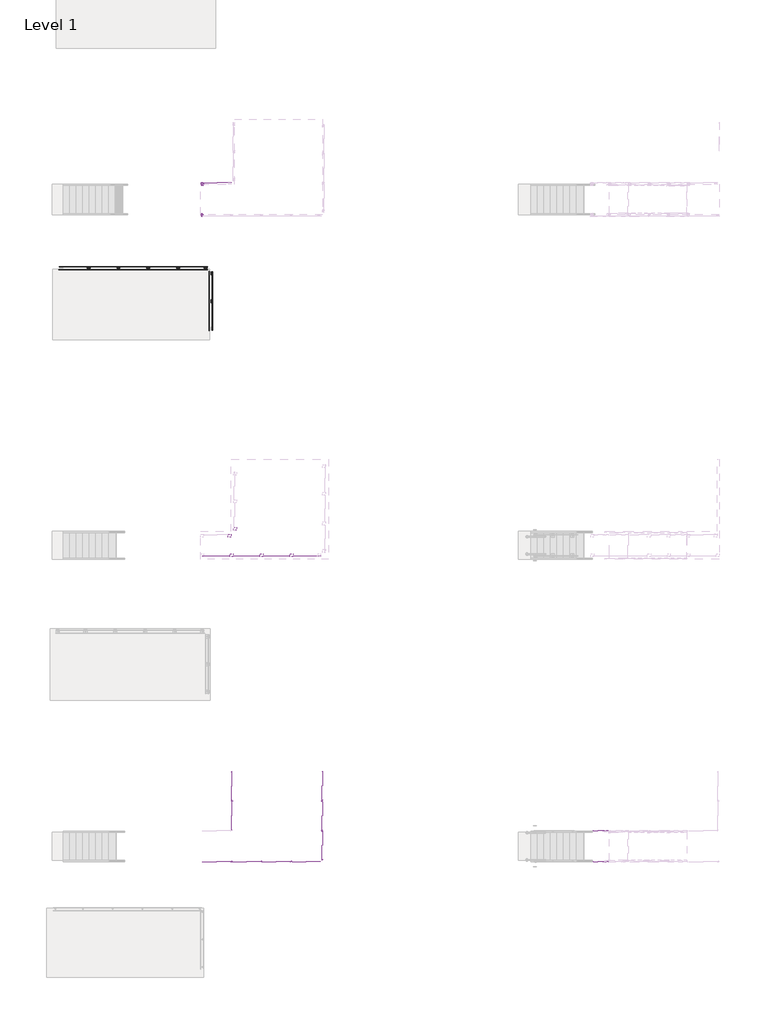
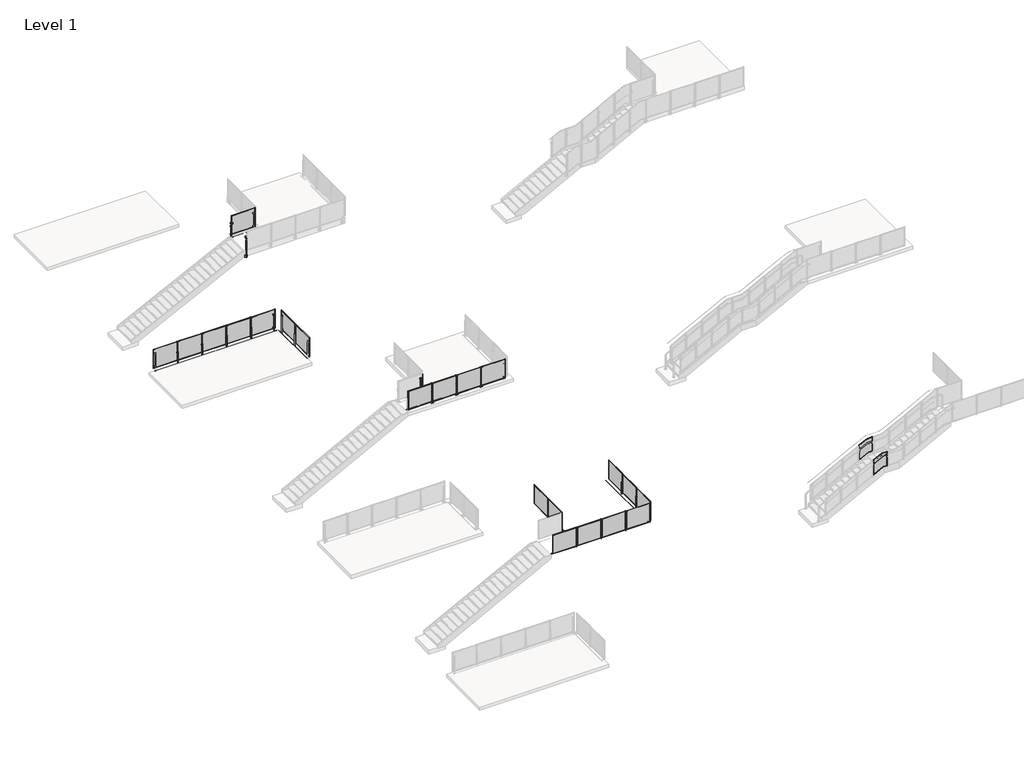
# One storey, part 2 of 28: 9 railings, 6 proxies.
"""IFC4 building model written with IfcOpenShell, lengths in millimetres."""

from ifc_helpers import new_model, si_unit, point, frame, frame_2d, origin, place, context, project, spatial, polyline, circle_curve, trimmed, segment, composite_curve, outline, extrude, transform, mapped, element, save
from components import building_element_proxy_d87515a7, building_element_proxy_f0dd287b, building_element_proxy_88367a16, building_element_proxy_bd17ef1f, building_element_proxy_f1f11727, standard_pp01_e994811a, standard_pp01_c1a8e514

model = new_model("IFC4")

# Units and contexts
model_context = context("Model", 3, world=origin())
ifc_project = project(units=[si_unit("LENGTHUNIT", "METRE", prefix="MILLI")], contexts=[model_context])

# Site, building, storey
site = spatial("IfcSite", under=ifc_project)
building = spatial("IfcBuilding", under=site)
storey = spatial("IfcBuildingStorey", under=building, Name="Level 1", Elevation=0.0)

# Proxies
placement = place(None, origin())
building_element_proxy_shape = building_element_proxy_d87515a7(model_context)
element("IfcBuildingElementProxy", 1, Name="Baluster-End-Post-VIVA-STRUC-Top Mount : ANCHORED TO CONCRETE_TOP MOUNT STRUC_STRAIGHT", ObjectType="Baluster-End-Post-VIVA-STRUC-Top Mount : ANCHORED TO CONCRETE_TOP MOUNT STRUC_STRAIGHT", at=placement, inside=storey, context=model_context, shape_type="MappedRepresentation", body=[
    mapped(building_element_proxy_shape, transform((-31746.8813244, -17681.7618878, 3047.492), x_axis=(-1.0, 0.0, 0.0), y_axis=(0.0, -1.0, 0.0), z_axis=(0.0, 0.0, 1.0))),
])
building_element_proxy_2_shape = building_element_proxy_f0dd287b(model_context)
element("IfcBuildingElementProxy", 2, Name="Baluster-End-Post-VIVA-STRUC-Top Mount : WELDED Fascia MOUNT STRUC_STRAIGHT", ObjectType="Baluster-End-Post-VIVA-STRUC-Top Mount : WELDED Fascia MOUNT STRUC_STRAIGHT", at=placement, inside=storey, context=model_context, shape_type="MappedRepresentation", body=[
    mapped(building_element_proxy_2_shape, transform((-32770.1701703, -6257.9599803, -0.508), x_axis=(-1.0, 0.0, 0.0), y_axis=(0.0, -1.0, 0.0), z_axis=(0.0, 0.0, 1.0))),
])
building_element_proxy_3_shape = building_element_proxy_88367a16(model_context)
element("IfcBuildingElementProxy", 3, Name="Baluster-End-Post-VIVA-STRUC-Top Mount : ANCHORED TO CONCRETE_TOP MOUNT STRUC_STRAIGHT", ObjectType="Baluster-End-Post-VIVA-STRUC-Top Mount : ANCHORED TO CONCRETE_TOP MOUNT STRUC_STRAIGHT", at=placement, inside=storey, context=model_context, shape_type="MappedRepresentation", body=[
    mapped(building_element_proxy_3_shape, transform((-31511.1662678, -17397.5929387, 3047.492), x_axis=(0.0, -1.0, 0.0), y_axis=(1.0, 0.0, 0.0), z_axis=(0.0, 0.0, 1.0))),
])
building_element_proxy_4_shape = building_element_proxy_bd17ef1f(model_context)
element("IfcBuildingElementProxy", 4, Name="Baluster-End-Post-VIVA-STRUC-Top Mount : WELDED Fascia MOUNT STRUC_STRAIGHT", ObjectType="Baluster-End-Post-VIVA-STRUC-Top Mount : WELDED Fascia MOUNT STRUC_STRAIGHT", at=placement, inside=storey, context=model_context, shape_type="MappedRepresentation", body=[
    mapped(building_element_proxy_4_shape, transform((-32705.8487034, -6320.5967002, -0.508), x_axis=(0.0, 1.0, 0.0), y_axis=(-1.0, 0.0, 0.0), z_axis=(0.0, 0.0, 1.0))),
])
building_element_proxy_5_shape = building_element_proxy_f1f11727(model_context)
element("IfcBuildingElementProxy", 5, Name="Baluster-End-Post-VIVA-STRUC-Top Mount-Stair : WELDED Fascia MOUNT STRUC_STAIR", ObjectType="Baluster-End-Post-VIVA-STRUC-Top Mount-Stair : WELDED Fascia MOUNT STRUC_STAIR", at=placement, inside=storey, context=model_context, shape_type="MappedRepresentation", body=[
    mapped(building_element_proxy_5_shape, transform((-33016.8813244, -2683.2750112, 3507.0149455), x_axis=(-1.0, 0.0, 0.0), y_axis=(0.0, -1.0, 0.0), z_axis=(0.0, 0.0, 1.0))),
])
element("IfcBuildingElementProxy", 6, Name="Baluster-End-Post-VIVA-STRUC-Top Mount-Stair : WELDED Fascia MOUNT STRUC_STAIR", ObjectType="Baluster-End-Post-VIVA-STRUC-Top Mount-Stair : WELDED Fascia MOUNT STRUC_STAIR", at=placement, inside=storey, context=model_context, shape_type="MappedRepresentation", body=[
    mapped(building_element_proxy_5_shape, transform((-33016.8813244, -3840.9974112, 3507.0149455), x_axis=(1.0, 0.0, 0.0), y_axis=(0.0, 1.0, 0.0), z_axis=(0.0, 0.0, 1.0))),
])

# Railings
element("IfcRailing", 7, ObjectType="Metal-Panel-VIVA-STRUC-Slab-Top-Weld-Straight", at=placement, inside=storey, context=model_context, shape_type="SweptSolid", body=[
    extrude(outline(composite_curve([segment(trimmed(circle_curve(frame_2d((-31356.1315768, 3047.746)), 0.254), [point((-31356.3855768, 3047.746))], [point((-31355.8775768, 3047.746))], False, "CARTESIAN"), True, "CONTINUOUS"), segment(trimmed(circle_curve(frame_2d((-31356.1315768, 3047.746)), 0.254), [point((-31355.8775768, 3047.746))], [point((-31356.3855768, 3047.746))], False, "CARTESIAN"), True, "CONTINUOUS")], self_intersect=False)), frame((-33026.4063244, 0.0, 0.0), z_axis=(1.0, 0.0, 0.0), x_axis=(0.0, 1.0, 0.0)), (0.0, 0.0, 1.0), 5080.0),
    extrude(outline(composite_curve([segment(trimmed(circle_curve(frame_2d((-31356.1315768, 3047.746)), 0.254), [point((-31356.3855768, 3047.746))], [point((-31355.8775768, 3047.746))], False, "CARTESIAN"), True, "CONTINUOUS"), segment(trimmed(circle_curve(frame_2d((-31356.1315768, 3047.746)), 0.254), [point((-31355.8775768, 3047.746))], [point((-31356.3855768, 3047.746))], False, "CARTESIAN"), True, "CONTINUOUS")], self_intersect=False)), frame((-33026.4063244, 0.0, 0.0), z_axis=(1.0, 0.0, 0.0), x_axis=(0.0, 1.0, 0.0)), (0.0, 0.0, 1.0), 5080.0),
    extrude(outline(polyline([(-29175.5798675, -31482.9805768), (-29175.5798675, -31479.9805768), (-27987.2327814, -31479.9805768), (-27987.2327814, -31482.9805768), (-29175.5798675, -31482.9805768)])), frame((0.0, 0.0, 3124.1959569), z_axis=(0.0, 0.0, 1.0), x_axis=(1.0, 0.0, 0.0)), (0.0, 0.0, 1.0), 990.5826861),
    extrude(outline(polyline([(3098.7959569, -29200.9798675), (3098.7959569, -27961.8327814), (4140.1786431, -27961.8327814), (4140.1786431, -29200.9798675), (3098.7959569, -29200.9798675)]), holes=[polyline([(4114.7786431, -29175.5798675), (4114.7786431, -27987.2327814), (3124.1959569, -27987.2327814), (3124.1959569, -29175.5798675), (4114.7786431, -29175.5798675)])]), frame((0.0, -31489.5055768, 0.0), z_axis=(0.0, 1.0, 0.0), x_axis=(0.0, 0.0, 1.0)), (0.0, 0.0, 1.0), 9.525),
    extrude(outline(polyline([(-29254.5070437, -31472.8699768), (-29178.3056052, -31472.8699768), (-29178.3056052, -31479.9819768), (-29254.5070437, -31479.9819768), (-29254.5070437, -31472.8699768)])), frame((0.0, 0.0, 3617.976), z_axis=(0.0, 0.0, 1.0), x_axis=(1.0, 0.0, 0.0)), (0.0, 0.0, 1.0), 50.8),
    extrude(outline(polyline([(-29254.5070437, -31472.8699768), (-29178.3056052, -31472.8699768), (-29178.3056052, -31479.9819768), (-29254.5070437, -31479.9819768), (-29254.5070437, -31472.8699768)])), frame((0.0, 0.0, 3160.776), z_axis=(0.0, 0.0, 1.0), x_axis=(1.0, 0.0, 0.0)), (0.0, 0.0, 1.0), 50.8),
    extrude(outline(polyline([(-29224.3459161, -31428.4199768), (-29208.4667328, -31428.4199768), (-29208.4667328, -31472.8699768), (-29224.3459161, -31472.8699768), (-29224.3459161, -31428.4199768)])), frame((0.0, 0.0, 3048.0), z_axis=(0.0, 0.0, 1.0), x_axis=(1.0, 0.0, 0.0)), (0.0, 0.0, 1.0), 660.4),
    extrude(outline(polyline([(-30445.5798675, -31482.9805768), (-30445.5798675, -31479.9805768), (-29257.2327814, -31479.9805768), (-29257.2327814, -31482.9805768), (-30445.5798675, -31482.9805768)])), frame((0.0, 0.0, 3124.1959569), z_axis=(0.0, 0.0, 1.0), x_axis=(1.0, 0.0, 0.0)), (0.0, 0.0, 1.0), 990.5826861),
    extrude(outline(polyline([(3098.7959569, -30470.9798675), (3098.7959569, -29231.8327814), (4140.1786431, -29231.8327814), (4140.1786431, -30470.9798675), (3098.7959569, -30470.9798675)]), holes=[polyline([(4114.7786431, -30445.5798675), (4114.7786431, -29257.2327814), (3124.1959569, -29257.2327814), (3124.1959569, -30445.5798675), (4114.7786431, -30445.5798675)])]), frame((0.0, -31489.5055768, 0.0), z_axis=(0.0, 1.0, 0.0), x_axis=(0.0, 0.0, 1.0)), (0.0, 0.0, 1.0), 9.525),
    extrude(outline(polyline([(-30524.5070437, -31472.8699768), (-30448.3056052, -31472.8699768), (-30448.3056052, -31479.9819768), (-30524.5070437, -31479.9819768), (-30524.5070437, -31472.8699768)])), frame((0.0, 0.0, 3617.976), z_axis=(0.0, 0.0, 1.0), x_axis=(1.0, 0.0, 0.0)), (0.0, 0.0, 1.0), 50.8),
    extrude(outline(polyline([(-30524.5070437, -31472.8699768), (-30448.3056052, -31472.8699768), (-30448.3056052, -31479.9819768), (-30524.5070437, -31479.9819768), (-30524.5070437, -31472.8699768)])), frame((0.0, 0.0, 3160.776), z_axis=(0.0, 0.0, 1.0), x_axis=(1.0, 0.0, 0.0)), (0.0, 0.0, 1.0), 50.8),
    extrude(outline(polyline([(-30494.3459161, -31428.4199768), (-30478.4667328, -31428.4199768), (-30478.4667328, -31472.8699768), (-30494.3459161, -31472.8699768), (-30494.3459161, -31428.4199768)])), frame((0.0, 0.0, 3048.0), z_axis=(0.0, 0.0, 1.0), x_axis=(1.0, 0.0, 0.0)), (0.0, 0.0, 1.0), 660.4),
    extrude(outline(polyline([(-31715.5798675, -31482.9805768), (-31715.5798675, -31479.9805768), (-30527.2327814, -31479.9805768), (-30527.2327814, -31482.9805768), (-31715.5798675, -31482.9805768)])), frame((0.0, 0.0, 3124.1959569), z_axis=(0.0, 0.0, 1.0), x_axis=(1.0, 0.0, 0.0)), (0.0, 0.0, 1.0), 990.5826861),
    extrude(outline(polyline([(3098.7959569, -31740.9798675), (3098.7959569, -30501.8327814), (4140.1786431, -30501.8327814), (4140.1786431, -31740.9798675), (3098.7959569, -31740.9798675)]), holes=[polyline([(4114.7786431, -31715.5798675), (4114.7786431, -30527.2327814), (3124.1959569, -30527.2327814), (3124.1959569, -31715.5798675), (4114.7786431, -31715.5798675)])]), frame((0.0, -31489.5055768, 0.0), z_axis=(0.0, 1.0, 0.0), x_axis=(0.0, 0.0, 1.0)), (0.0, 0.0, 1.0), 9.525),
    extrude(outline(polyline([(-31794.5070437, -31472.8699768), (-31718.3056052, -31472.8699768), (-31718.3056052, -31479.9819768), (-31794.5070437, -31479.9819768), (-31794.5070437, -31472.8699768)])), frame((0.0, 0.0, 3617.976), z_axis=(0.0, 0.0, 1.0), x_axis=(1.0, 0.0, 0.0)), (0.0, 0.0, 1.0), 50.8),
    extrude(outline(polyline([(-31794.5070437, -31472.8699768), (-31718.3056052, -31472.8699768), (-31718.3056052, -31479.9819768), (-31794.5070437, -31479.9819768), (-31794.5070437, -31472.8699768)])), frame((0.0, 0.0, 3160.776), z_axis=(0.0, 0.0, 1.0), x_axis=(1.0, 0.0, 0.0)), (0.0, 0.0, 1.0), 50.8),
    extrude(outline(polyline([(-31764.3459161, -31428.4199768), (-31748.4667328, -31428.4199768), (-31748.4667328, -31472.8699768), (-31764.3459161, -31472.8699768), (-31764.3459161, -31428.4199768)])), frame((0.0, 0.0, 3048.0), z_axis=(0.0, 0.0, 1.0), x_axis=(1.0, 0.0, 0.0)), (0.0, 0.0, 1.0), 660.4),
    extrude(outline(polyline([(-32985.5798675, -31482.9805768), (-32985.5798675, -31479.9805768), (-31797.2327814, -31479.9805768), (-31797.2327814, -31482.9805768), (-32985.5798675, -31482.9805768)])), frame((0.0, 0.0, 3124.1959569), z_axis=(0.0, 0.0, 1.0), x_axis=(1.0, 0.0, 0.0)), (0.0, 0.0, 1.0), 990.5826861),
    extrude(outline(polyline([(3098.7959569, -33010.9798675), (3098.7959569, -31771.8327814), (4140.1786431, -31771.8327814), (4140.1786431, -33010.9798675), (3098.7959569, -33010.9798675)]), holes=[polyline([(4114.7786431, -32985.5798675), (4114.7786431, -31797.2327814), (3124.1959569, -31797.2327814), (3124.1959569, -32985.5798675), (4114.7786431, -32985.5798675)])]), frame((0.0, -31489.5055768, 0.0), z_axis=(0.0, 1.0, 0.0), x_axis=(0.0, 0.0, 1.0)), (0.0, 0.0, 1.0), 9.525),
])
element("IfcRailing", 8, ObjectType="Metal-Panel-VIVA-STRUC-Slab-Top-Weld-Straight", at=placement, inside=storey, context=model_context, shape_type="SweptSolid", body=[
    extrude(outline(composite_curve([segment(trimmed(circle_curve(frame_2d((3047.746, -31627.8919393)), 0.254), [point((3047.746, -31627.6379393))], [point((3047.746, -31628.1459393))], False, "CARTESIAN"), True, "CONTINUOUS"), segment(trimmed(circle_curve(frame_2d((3047.746, -31627.8919393)), 0.254), [point((3047.746, -31628.1459393))], [point((3047.746, -31627.6379393))], False, "CARTESIAN"), True, "CONTINUOUS")], self_intersect=False)), frame((0.0, -30159.4218394, 0.0), z_axis=(0.0, 1.0, 0.0), x_axis=(0.0, 0.0, 1.0)), (0.0, 0.0, 1.0), 2540.0),
    extrude(outline(composite_curve([segment(trimmed(circle_curve(frame_2d((3047.746, -31627.8919393)), 0.254), [point((3047.746, -31627.6379393))], [point((3047.746, -31628.1459393))], False, "CARTESIAN"), True, "CONTINUOUS"), segment(trimmed(circle_curve(frame_2d((3047.746, -31627.8919393)), 0.254), [point((3047.746, -31628.1459393))], [point((3047.746, -31627.6379393))], False, "CARTESIAN"), True, "CONTINUOUS")], self_intersect=False)), frame((0.0, -30159.4218394, 0.0), z_axis=(0.0, 1.0, 0.0), x_axis=(0.0, 0.0, 1.0)), (0.0, 0.0, 1.0), 2540.0),
    extrude(outline(polyline([(-31754.7409393, -28848.5953825), (-31754.7409393, -27660.2482963), (-31751.7409393, -27660.2482963), (-31751.7409393, -28848.5953825), (-31754.7409393, -28848.5953825)])), frame((0.0, 0.0, 3124.1959569), z_axis=(0.0, 0.0, 1.0), x_axis=(1.0, 0.0, 0.0)), (0.0, 0.0, 1.0), 990.5826861),
    extrude(outline(polyline([(-28873.9953825, 3098.7959569), (-28873.9953825, 4140.1786431), (-27634.8482963, 4140.1786431), (-27634.8482963, 3098.7959569), (-28873.9953825, 3098.7959569)]), holes=[polyline([(-28848.5953825, 4114.7786431), (-28848.5953825, 3124.1959569), (-27660.2482963, 3124.1959569), (-27660.2482963, 4114.7786431), (-28848.5953825, 4114.7786431)])]), frame((-31761.2659393, 0.0, 0.0), z_axis=(1.0, 0.0, 0.0), x_axis=(0.0, 1.0, 0.0)), (0.0, 0.0, 1.0), 9.525),
    extrude(outline(polyline([(-31744.6303393, -28927.5225586), (-31751.7423393, -28927.5225586), (-31751.7423393, -28851.3211202), (-31744.6303393, -28851.3211202), (-31744.6303393, -28927.5225586)])), frame((0.0, 0.0, 3617.976), z_axis=(0.0, 0.0, 1.0), x_axis=(1.0, 0.0, 0.0)), (0.0, 0.0, 1.0), 50.8),
    extrude(outline(polyline([(-31744.6303393, -28927.5225586), (-31751.7423393, -28927.5225586), (-31751.7423393, -28851.3211202), (-31744.6303393, -28851.3211202), (-31744.6303393, -28927.5225586)])), frame((0.0, 0.0, 3160.776), z_axis=(0.0, 0.0, 1.0), x_axis=(1.0, 0.0, 0.0)), (0.0, 0.0, 1.0), 50.8),
    extrude(outline(polyline([(-31700.1803393, -28897.361431), (-31744.6303393, -28897.361431), (-31744.6303393, -28881.4822477), (-31700.1803393, -28881.4822477), (-31700.1803393, -28897.361431)])), frame((0.0, 0.0, 3048.0), z_axis=(0.0, 0.0, 1.0), x_axis=(1.0, 0.0, 0.0)), (0.0, 0.0, 1.0), 660.4),
    extrude(outline(polyline([(-31754.7409393, -30118.5953825), (-31754.7409393, -28930.2482963), (-31751.7409393, -28930.2482963), (-31751.7409393, -30118.5953825), (-31754.7409393, -30118.5953825)])), frame((0.0, 0.0, 3124.1959569), z_axis=(0.0, 0.0, 1.0), x_axis=(1.0, 0.0, 0.0)), (0.0, 0.0, 1.0), 990.5826861),
    extrude(outline(polyline([(-30143.9953825, 3098.7959569), (-30143.9953825, 4140.1786431), (-28904.8482963, 4140.1786431), (-28904.8482963, 3098.7959569), (-30143.9953825, 3098.7959569)]), holes=[polyline([(-30118.5953825, 4114.7786431), (-30118.5953825, 3124.1959569), (-28930.2482963, 3124.1959569), (-28930.2482963, 4114.7786431), (-30118.5953825, 4114.7786431)])]), frame((-31761.2659393, 0.0, 0.0), z_axis=(1.0, 0.0, 0.0), x_axis=(0.0, 1.0, 0.0)), (0.0, 0.0, 1.0), 9.525),
])
element("IfcRailing", 9, ObjectType="Metal-Panel-VIVA-STRUC-Slab-Top-Anchor-Straight", at=placement, inside=storey, context=model_context, shape_type="SweptSolid", body=[
    extrude(outline(composite_curve([segment(trimmed(circle_curve(frame_2d((-18322.9489897, 3047.746)), 0.254), [point((-18323.2029897, 3047.746))], [point((-18322.6949897, 3047.746))], False, "CARTESIAN"), True, "CONTINUOUS"), segment(trimmed(circle_curve(frame_2d((-18322.9489897, 3047.746)), 0.254), [point((-18322.6949897, 3047.746))], [point((-18323.2029897, 3047.746))], False, "CARTESIAN"), True, "CONTINUOUS")], self_intersect=False)), frame((-33016.8813244, 0.0, 0.0), z_axis=(1.0, 0.0, 0.0), x_axis=(0.0, 1.0, 0.0)), (0.0, 0.0, 1.0), 5080.0),
    extrude(outline(composite_curve([segment(trimmed(circle_curve(frame_2d((-18322.9489897, 3047.746)), 0.254), [point((-18323.2029897, 3047.746))], [point((-18322.6949897, 3047.746))], False, "CARTESIAN"), True, "CONTINUOUS"), segment(trimmed(circle_curve(frame_2d((-18322.9489897, 3047.746)), 0.254), [point((-18322.6949897, 3047.746))], [point((-18323.2029897, 3047.746))], False, "CARTESIAN"), True, "CONTINUOUS")], self_intersect=False)), frame((-33016.8813244, 0.0, 0.0), z_axis=(1.0, 0.0, 0.0), x_axis=(0.0, 1.0, 0.0)), (0.0, 0.0, 1.0), 5080.0),
    extrude(outline(polyline([(-29166.0548675, -18449.7979897), (-29166.0548675, -18446.7979897), (-27977.7077814, -18446.7979897), (-27977.7077814, -18449.7979897), (-29166.0548675, -18449.7979897)])), frame((0.0, 0.0, 3124.1959569), z_axis=(0.0, 0.0, 1.0), x_axis=(1.0, 0.0, 0.0)), (0.0, 0.0, 1.0), 990.5826861),
    extrude(outline(polyline([(3098.7959569, -29191.4548675), (3098.7959569, -27952.3077814), (4140.1786431, -27952.3077814), (4140.1786431, -29191.4548675), (3098.7959569, -29191.4548675)]), holes=[polyline([(4114.7786431, -29166.0548675), (4114.7786431, -27977.7077814), (3124.1959569, -27977.7077814), (3124.1959569, -29166.0548675), (4114.7786431, -29166.0548675)])]), frame((0.0, -18456.3229897, 0.0), z_axis=(0.0, 1.0, 0.0), x_axis=(0.0, 0.0, 1.0)), (0.0, 0.0, 1.0), 9.525),
    extrude(outline(polyline([(-29244.9820437, -18439.6873897), (-29168.7806052, -18439.6873897), (-29168.7806052, -18446.7993897), (-29244.9820437, -18446.7993897), (-29244.9820437, -18439.6873897)])), frame((0.0, 0.0, 3617.976), z_axis=(0.0, 0.0, 1.0), x_axis=(1.0, 0.0, 0.0)), (0.0, 0.0, 1.0), 50.8),
    extrude(outline(polyline([(-29244.9820437, -18439.6873897), (-29168.7806052, -18439.6873897), (-29168.7806052, -18446.7993897), (-29244.9820437, -18446.7993897), (-29244.9820437, -18439.6873897)])), frame((0.0, 0.0, 3160.776), z_axis=(0.0, 0.0, 1.0), x_axis=(1.0, 0.0, 0.0)), (0.0, 0.0, 1.0), 50.8),
    extrude(outline(polyline([(-29272.7689244, -18351.5747897), (-29140.9937244, -18351.5747897), (-29140.9937244, -18483.3499897), (-29272.7689244, -18483.3499897), (-29272.7689244, -18351.5747897)])), frame((0.0, 0.0, 3048.0), z_axis=(0.0, 0.0, 1.0), x_axis=(1.0, 0.0, 0.0)), (0.0, 0.0, 1.0), 25.4),
    extrude(outline(polyline([(-29214.8209161, -18395.2373897), (-29198.9417328, -18395.2373897), (-29198.9417328, -18439.6873897), (-29214.8209161, -18439.6873897), (-29214.8209161, -18395.2373897)])), frame((0.0, 0.0, 3048.0), z_axis=(0.0, 0.0, 1.0), x_axis=(1.0, 0.0, 0.0)), (0.0, 0.0, 1.0), 660.4),
    extrude(outline(polyline([(-30436.0548675, -18449.7979897), (-30436.0548675, -18446.7979897), (-29247.7077814, -18446.7979897), (-29247.7077814, -18449.7979897), (-30436.0548675, -18449.7979897)])), frame((0.0, 0.0, 3124.1959569), z_axis=(0.0, 0.0, 1.0), x_axis=(1.0, 0.0, 0.0)), (0.0, 0.0, 1.0), 990.5826861),
    extrude(outline(polyline([(3098.7959569, -30461.4548675), (3098.7959569, -29222.3077814), (4140.1786431, -29222.3077814), (4140.1786431, -30461.4548675), (3098.7959569, -30461.4548675)]), holes=[polyline([(4114.7786431, -30436.0548675), (4114.7786431, -29247.7077814), (3124.1959569, -29247.7077814), (3124.1959569, -30436.0548675), (4114.7786431, -30436.0548675)])]), frame((0.0, -18456.3229897, 0.0), z_axis=(0.0, 1.0, 0.0), x_axis=(0.0, 0.0, 1.0)), (0.0, 0.0, 1.0), 9.525),
    extrude(outline(polyline([(-30514.9820437, -18439.6873897), (-30438.7806052, -18439.6873897), (-30438.7806052, -18446.7993897), (-30514.9820437, -18446.7993897), (-30514.9820437, -18439.6873897)])), frame((0.0, 0.0, 3617.976), z_axis=(0.0, 0.0, 1.0), x_axis=(1.0, 0.0, 0.0)), (0.0, 0.0, 1.0), 50.8),
    extrude(outline(polyline([(-30514.9820437, -18439.6873897), (-30438.7806052, -18439.6873897), (-30438.7806052, -18446.7993897), (-30514.9820437, -18446.7993897), (-30514.9820437, -18439.6873897)])), frame((0.0, 0.0, 3160.776), z_axis=(0.0, 0.0, 1.0), x_axis=(1.0, 0.0, 0.0)), (0.0, 0.0, 1.0), 50.8),
    extrude(outline(polyline([(-30542.7689244, -18351.5747897), (-30410.9937244, -18351.5747897), (-30410.9937244, -18483.3499897), (-30542.7689244, -18483.3499897), (-30542.7689244, -18351.5747897)])), frame((0.0, 0.0, 3048.0), z_axis=(0.0, 0.0, 1.0), x_axis=(1.0, 0.0, 0.0)), (0.0, 0.0, 1.0), 25.4),
    extrude(outline(polyline([(-30484.8209161, -18395.2373897), (-30468.9417328, -18395.2373897), (-30468.9417328, -18439.6873897), (-30484.8209161, -18439.6873897), (-30484.8209161, -18395.2373897)])), frame((0.0, 0.0, 3048.0), z_axis=(0.0, 0.0, 1.0), x_axis=(1.0, 0.0, 0.0)), (0.0, 0.0, 1.0), 660.4),
    extrude(outline(polyline([(-31706.0548675, -18449.7979897), (-31706.0548675, -18446.7979897), (-30517.7077814, -18446.7979897), (-30517.7077814, -18449.7979897), (-31706.0548675, -18449.7979897)])), frame((0.0, 0.0, 3124.1959569), z_axis=(0.0, 0.0, 1.0), x_axis=(1.0, 0.0, 0.0)), (0.0, 0.0, 1.0), 990.5826861),
    extrude(outline(polyline([(3098.7959569, -31731.4548675), (3098.7959569, -30492.3077814), (4140.1786431, -30492.3077814), (4140.1786431, -31731.4548675), (3098.7959569, -31731.4548675)]), holes=[polyline([(4114.7786431, -31706.0548675), (4114.7786431, -30517.7077814), (3124.1959569, -30517.7077814), (3124.1959569, -31706.0548675), (4114.7786431, -31706.0548675)])]), frame((0.0, -18456.3229897, 0.0), z_axis=(0.0, 1.0, 0.0), x_axis=(0.0, 0.0, 1.0)), (0.0, 0.0, 1.0), 9.525),
    extrude(outline(polyline([(-31784.9820437, -18439.6873897), (-31708.7806052, -18439.6873897), (-31708.7806052, -18446.7993897), (-31784.9820437, -18446.7993897), (-31784.9820437, -18439.6873897)])), frame((0.0, 0.0, 3617.976), z_axis=(0.0, 0.0, 1.0), x_axis=(1.0, 0.0, 0.0)), (0.0, 0.0, 1.0), 50.8),
    extrude(outline(polyline([(-31784.9820437, -18439.6873897), (-31708.7806052, -18439.6873897), (-31708.7806052, -18446.7993897), (-31784.9820437, -18446.7993897), (-31784.9820437, -18439.6873897)])), frame((0.0, 0.0, 3160.776), z_axis=(0.0, 0.0, 1.0), x_axis=(1.0, 0.0, 0.0)), (0.0, 0.0, 1.0), 50.8),
    extrude(outline(polyline([(-31812.7689244, -18351.5747897), (-31680.9937244, -18351.5747897), (-31680.9937244, -18483.3499897), (-31812.7689244, -18483.3499897), (-31812.7689244, -18351.5747897)])), frame((0.0, 0.0, 3048.0), z_axis=(0.0, 0.0, 1.0), x_axis=(1.0, 0.0, 0.0)), (0.0, 0.0, 1.0), 25.4),
    extrude(outline(polyline([(-31754.8209161, -18395.2373897), (-31738.9417328, -18395.2373897), (-31738.9417328, -18439.6873897), (-31754.8209161, -18439.6873897), (-31754.8209161, -18395.2373897)])), frame((0.0, 0.0, 3048.0), z_axis=(0.0, 0.0, 1.0), x_axis=(1.0, 0.0, 0.0)), (0.0, 0.0, 1.0), 660.4),
    extrude(outline(polyline([(-32976.0548675, -18449.7979897), (-32976.0548675, -18446.7979897), (-31787.7077814, -18446.7979897), (-31787.7077814, -18449.7979897), (-32976.0548675, -18449.7979897)])), frame((0.0, 0.0, 3124.1959569), z_axis=(0.0, 0.0, 1.0), x_axis=(1.0, 0.0, 0.0)), (0.0, 0.0, 1.0), 990.5826861),
    extrude(outline(polyline([(3098.7959569, -33001.4548675), (3098.7959569, -31762.3077814), (4140.1786431, -31762.3077814), (4140.1786431, -33001.4548675), (3098.7959569, -33001.4548675)]), holes=[polyline([(4114.7786431, -32976.0548675), (4114.7786431, -31787.7077814), (3124.1959569, -31787.7077814), (3124.1959569, -32976.0548675), (4114.7786431, -32976.0548675)])]), frame((0.0, -18456.3229897, 0.0), z_axis=(0.0, 1.0, 0.0), x_axis=(0.0, 0.0, 1.0)), (0.0, 0.0, 1.0), 9.525),
])
element("IfcRailing", 10, ObjectType="Metal-Panel-VIVA-STRUC-Slab-Top-Weld-Straight", at=placement, inside=storey, context=model_context, shape_type="SweptSolid", body=[
    extrude(outline(composite_curve([segment(trimmed(circle_curve(frame_2d((3047.746, -28014.6091099)), 0.254), [point((3047.746, -28014.3551099))], [point((3047.746, -28014.8631099))], False, "CARTESIAN"), True, "CONTINUOUS"), segment(trimmed(circle_curve(frame_2d((3047.746, -28014.6091099)), 0.254), [point((3047.746, -28014.8631099))], [point((3047.746, -28014.3551099))], False, "CARTESIAN"), True, "CONTINUOUS")], self_intersect=False)), frame((0.0, -31422.1015554, 0.0), z_axis=(0.0, 1.0, 0.0), x_axis=(0.0, 0.0, 1.0)), (0.0, 0.0, 1.0), 3810.0),
    extrude(outline(composite_curve([segment(trimmed(circle_curve(frame_2d((3047.746, -28014.6091099)), 0.254), [point((3047.746, -28014.3551099))], [point((3047.746, -28014.8631099))], False, "CARTESIAN"), True, "CONTINUOUS"), segment(trimmed(circle_curve(frame_2d((3047.746, -28014.6091099)), 0.254), [point((3047.746, -28014.8631099))], [point((3047.746, -28014.3551099))], False, "CARTESIAN"), True, "CONTINUOUS")], self_intersect=False)), frame((0.0, -31422.1015554, 0.0), z_axis=(0.0, 1.0, 0.0), x_axis=(0.0, 0.0, 1.0)), (0.0, 0.0, 1.0), 3810.0),
    extrude(outline(polyline([(-27887.7601099, -28841.2750985), (-27890.7601099, -28841.2750985), (-27890.7601099, -27652.9280124), (-27887.7601099, -27652.9280124), (-27887.7601099, -28841.2750985)])), frame((0.0, 0.0, 3124.1959569), z_axis=(0.0, 0.0, 1.0), x_axis=(1.0, 0.0, 0.0)), (0.0, 0.0, 1.0), 990.5826861),
    extrude(outline(polyline([(-28866.6750985, 4140.1786431), (-27627.5280124, 4140.1786431), (-27627.5280124, 3098.7959569), (-28866.6750985, 3098.7959569), (-28866.6750985, 4140.1786431)]), holes=[polyline([(-28841.2750985, 3124.1959569), (-27652.9280124, 3124.1959569), (-27652.9280124, 4114.7786431), (-28841.2750985, 4114.7786431), (-28841.2750985, 3124.1959569)])]), frame((-27890.7601099, 0.0, 0.0), z_axis=(1.0, 0.0, 0.0), x_axis=(0.0, 1.0, 0.0)), (0.0, 0.0, 1.0), 9.525),
    extrude(outline(polyline([(-27897.8707099, -28920.2022747), (-27897.8707099, -28844.0008362), (-27890.7587099, -28844.0008362), (-27890.7587099, -28920.2022747), (-27897.8707099, -28920.2022747)])), frame((0.0, 0.0, 3617.976), z_axis=(0.0, 0.0, 1.0), x_axis=(1.0, 0.0, 0.0)), (0.0, 0.0, 1.0), 50.8),
    extrude(outline(polyline([(-27897.8707099, -28920.2022747), (-27897.8707099, -28844.0008362), (-27890.7587099, -28844.0008362), (-27890.7587099, -28920.2022747), (-27897.8707099, -28920.2022747)])), frame((0.0, 0.0, 3160.776), z_axis=(0.0, 0.0, 1.0), x_axis=(1.0, 0.0, 0.0)), (0.0, 0.0, 1.0), 50.8),
    extrude(outline(polyline([(-27942.3207099, -28890.0411471), (-27942.3207099, -28874.1619638), (-27897.8707099, -28874.1619638), (-27897.8707099, -28890.0411471), (-27942.3207099, -28890.0411471)])), frame((0.0, 0.0, 3048.0), z_axis=(0.0, 0.0, 1.0), x_axis=(1.0, 0.0, 0.0)), (0.0, 0.0, 1.0), 660.4),
    extrude(outline(polyline([(-27887.7601099, -30111.2750985), (-27890.7601099, -30111.2750985), (-27890.7601099, -28922.9280124), (-27887.7601099, -28922.9280124), (-27887.7601099, -30111.2750985)])), frame((0.0, 0.0, 3124.1959569), z_axis=(0.0, 0.0, 1.0), x_axis=(1.0, 0.0, 0.0)), (0.0, 0.0, 1.0), 990.5826861),
    extrude(outline(polyline([(-30136.6750985, 4140.1786431), (-28897.5280124, 4140.1786431), (-28897.5280124, 3098.7959569), (-30136.6750985, 3098.7959569), (-30136.6750985, 4140.1786431)]), holes=[polyline([(-30111.2750985, 3124.1959569), (-28922.9280124, 3124.1959569), (-28922.9280124, 4114.7786431), (-30111.2750985, 4114.7786431), (-30111.2750985, 3124.1959569)])]), frame((-27890.7601099, 0.0, 0.0), z_axis=(1.0, 0.0, 0.0), x_axis=(0.0, 1.0, 0.0)), (0.0, 0.0, 1.0), 9.525),
    extrude(outline(polyline([(-27897.8707099, -30190.2022747), (-27897.8707099, -30114.0008362), (-27890.7587099, -30114.0008362), (-27890.7587099, -30190.2022747), (-27897.8707099, -30190.2022747)])), frame((0.0, 0.0, 3617.976), z_axis=(0.0, 0.0, 1.0), x_axis=(1.0, 0.0, 0.0)), (0.0, 0.0, 1.0), 50.8),
    extrude(outline(polyline([(-27897.8707099, -30190.2022747), (-27897.8707099, -30114.0008362), (-27890.7587099, -30114.0008362), (-27890.7587099, -30190.2022747), (-27897.8707099, -30190.2022747)])), frame((0.0, 0.0, 3160.776), z_axis=(0.0, 0.0, 1.0), x_axis=(1.0, 0.0, 0.0)), (0.0, 0.0, 1.0), 50.8),
    extrude(outline(polyline([(-27942.3207099, -30160.0411471), (-27942.3207099, -30144.1619638), (-27897.8707099, -30144.1619638), (-27897.8707099, -30160.0411471), (-27942.3207099, -30160.0411471)])), frame((0.0, 0.0, 3048.0), z_axis=(0.0, 0.0, 1.0), x_axis=(1.0, 0.0, 0.0)), (0.0, 0.0, 1.0), 660.4),
    extrude(outline(polyline([(-27887.7601099, -31381.2750985), (-27890.7601099, -31381.2750985), (-27890.7601099, -30192.9280124), (-27887.7601099, -30192.9280124), (-27887.7601099, -31381.2750985)])), frame((0.0, 0.0, 3124.1959569), z_axis=(0.0, 0.0, 1.0), x_axis=(1.0, 0.0, 0.0)), (0.0, 0.0, 1.0), 990.5826861),
    extrude(outline(polyline([(-31406.6750985, 4140.1786431), (-30167.5280124, 4140.1786431), (-30167.5280124, 3098.7959569), (-31406.6750985, 3098.7959569), (-31406.6750985, 4140.1786431)]), holes=[polyline([(-31381.2750985, 3124.1959569), (-30192.9280124, 3124.1959569), (-30192.9280124, 4114.7786431), (-31381.2750985, 4114.7786431), (-31381.2750985, 3124.1959569)])]), frame((-27890.7601099, 0.0, 0.0), z_axis=(1.0, 0.0, 0.0), x_axis=(0.0, 1.0, 0.0)), (0.0, 0.0, 1.0), 9.525),
])
element("IfcRailing", 11, ObjectType="Metal-Panel-VIVA-STRUC-Fascia-Straight", at=placement, inside=storey, context=model_context, shape_type="SweptSolid", body=[
    extrude(outline(composite_curve([segment(trimmed(circle_curve(frame_2d((-0.254, -32705.8487034)), 0.254), [point((-0.254, -32706.1027034))], [point((-0.254, -32705.5947034))], False, "CARTESIAN"), True, "CONTINUOUS"), segment(trimmed(circle_curve(frame_2d((-0.254, -32705.8487034)), 0.254), [point((-0.254, -32705.5947034))], [point((-0.254, -32706.1027034))], False, "CARTESIAN"), True, "CONTINUOUS")], self_intersect=False)), frame((0.0, -8860.5967002, 0.0), z_axis=(0.0, 1.0, 0.0), x_axis=(0.0, 0.0, 1.0)), (0.0, 0.0, 1.0), 2540.0),
    extrude(outline(composite_curve([segment(trimmed(circle_curve(frame_2d((-0.254, -32705.8487034)), 0.254), [point((-0.254, -32706.1027034))], [point((-0.254, -32705.5947034))], False, "CARTESIAN"), True, "CONTINUOUS"), segment(trimmed(circle_curve(frame_2d((-0.254, -32705.8487034)), 0.254), [point((-0.254, -32705.5947034))], [point((-0.254, -32706.1027034))], False, "CARTESIAN"), True, "CONTINUOUS")], self_intersect=False)), frame((0.0, -8860.5967002, 0.0), z_axis=(0.0, 1.0, 0.0), x_axis=(0.0, 0.0, 1.0)), (0.0, 0.0, 1.0), 2540.0),
    extrude(outline(polyline([(-32576.1549034, -7631.4231571), (-32576.1549034, -8819.7702432), (-32579.1549034, -8819.7702432), (-32579.1549034, -7631.4231571), (-32576.1549034, -7631.4231571)])), frame((0.0, 0.0, 76.1959569), z_axis=(0.0, 0.0, 1.0), x_axis=(1.0, 0.0, 0.0)), (0.0, 0.0, 1.0), 990.5826861),
    extrude(outline(polyline([(-7606.0231571, 1092.1786431), (-7606.0231571, 50.7959569), (-8845.1702432, 50.7959569), (-8845.1702432, 1092.1786431), (-7606.0231571, 1092.1786431)]), holes=[polyline([(-7631.4231571, 76.1959569), (-7631.4231571, 1066.7786431), (-8819.7702432, 1066.7786431), (-8819.7702432, 76.1959569), (-7631.4231571, 76.1959569)])]), frame((-32579.1549034, 0.0, 0.0), z_axis=(1.0, 0.0, 0.0), x_axis=(0.0, 1.0, 0.0)), (0.0, 0.0, 1.0), 9.525),
    extrude(outline(polyline([(-32586.2655034, -7552.4959809), (-32579.1535034, -7552.4959809), (-32579.1535034, -7628.6974194), (-32586.2655034, -7628.6974194), (-32586.2655034, -7552.4959809)])), frame((0.0, 0.0, 481.076), z_axis=(0.0, 0.0, 1.0), x_axis=(1.0, 0.0, 0.0)), (0.0, 0.0, 1.0), 50.8),
    extrude(outline(polyline([(-32586.2655034, -7552.4959809), (-32579.1535034, -7552.4959809), (-32579.1535034, -7628.6974194), (-32586.2655034, -7628.6974194), (-32586.2655034, -7552.4959809)])), frame((0.0, 0.0, 23.876), z_axis=(0.0, 0.0, 1.0), x_axis=(1.0, 0.0, 0.0)), (0.0, 0.0, 1.0), 50.8),
    extrude(outline(polyline([(-32592.1075034, -7598.5321085), (-32592.1075034, -7606.5331085), (-32625.8895034, -7606.5331085), (-32625.8895034, -7654.0926301), (-32634.0175034, -7654.0926301), (-32634.0175034, -7598.5321085), (-32592.1075034, -7598.5321085)])), frame((0.0, 0.0, -215.9), z_axis=(0.0, 0.0, 1.0), x_axis=(1.0, 0.0, 0.0)), (0.0, 0.0, 1.0), 127.0),
    extrude(outline(polyline([(-32592.1075034, -7582.6571085), (-32634.0175034, -7582.6571085), (-32634.0175034, -7527.0965869), (-32625.8895034, -7527.0965869), (-32625.8895034, -7574.6561085), (-32592.1075034, -7574.6561085), (-32592.1075034, -7582.6571085)])), frame((0.0, 0.0, -215.9), z_axis=(0.0, 0.0, 1.0), x_axis=(1.0, 0.0, 0.0)), (0.0, 0.0, 1.0), 127.0),
    extrude(outline(polyline([(-32630.7155034, -7582.6571085), (-32586.2655034, -7582.6571085), (-32586.2655034, -7598.5362918), (-32630.7155034, -7598.5362918), (-32630.7155034, -7582.6571085)])), frame((0.0, 0.0, -215.9), z_axis=(0.0, 0.0, 1.0), x_axis=(1.0, 0.0, 0.0)), (0.0, 0.0, 1.0), 787.4),
    extrude(outline(polyline([(-32576.1549034, -6361.4231571), (-32576.1549034, -7549.7702432), (-32579.1549034, -7549.7702432), (-32579.1549034, -6361.4231571), (-32576.1549034, -6361.4231571)])), frame((0.0, 0.0, 76.1959569), z_axis=(0.0, 0.0, 1.0), x_axis=(1.0, 0.0, 0.0)), (0.0, 0.0, 1.0), 990.5826861),
    extrude(outline(polyline([(-6336.0231571, 1092.1786431), (-6336.0231571, 50.7959569), (-7575.1702432, 50.7959569), (-7575.1702432, 1092.1786431), (-6336.0231571, 1092.1786431)]), holes=[polyline([(-6361.4231571, 76.1959569), (-6361.4231571, 1066.7786431), (-7549.7702432, 1066.7786431), (-7549.7702432, 76.1959569), (-6361.4231571, 76.1959569)])]), frame((-32579.1549034, 0.0, 0.0), z_axis=(1.0, 0.0, 0.0), x_axis=(0.0, 1.0, 0.0)), (0.0, 0.0, 1.0), 9.525),
])
element("IfcRailing", 12, ObjectType="Metal-Panel-VIVA-STRUC-Fascia-Straight", at=placement, inside=storey, context=model_context, shape_type="SweptSolid", body=[
    extrude(outline(composite_curve([segment(trimmed(circle_curve(frame_2d((-6257.9599803, -0.254)), 0.254), [point((-6258.2139803, -0.254))], [point((-6257.7059803, -0.254))], False, "CARTESIAN"), True, "CONTINUOUS"), segment(trimmed(circle_curve(frame_2d((-6257.9599803, -0.254)), 0.254), [point((-6257.7059803, -0.254))], [point((-6258.2139803, -0.254))], False, "CARTESIAN"), True, "CONTINUOUS")], self_intersect=False)), frame((-39120.1701703, 0.0, 0.0), z_axis=(1.0, 0.0, 0.0), x_axis=(0.0, 1.0, 0.0)), (0.0, 0.0, 1.0), 6350.0),
    extrude(outline(composite_curve([segment(trimmed(circle_curve(frame_2d((-6257.9599803, -0.254)), 0.254), [point((-6258.2139803, -0.254))], [point((-6257.7059803, -0.254))], False, "CARTESIAN"), True, "CONTINUOUS"), segment(trimmed(circle_curve(frame_2d((-6257.9599803, -0.254)), 0.254), [point((-6257.7059803, -0.254))], [point((-6258.2139803, -0.254))], False, "CARTESIAN"), True, "CONTINUOUS")], self_intersect=False)), frame((-39120.1701703, 0.0, 0.0), z_axis=(1.0, 0.0, 0.0), x_axis=(0.0, 1.0, 0.0)), (0.0, 0.0, 1.0), 6350.0),
    extrude(outline(polyline([(-33999.3437134, -6128.2661803), (-32810.9966272, -6128.2661803), (-32810.9966272, -6131.2661803), (-33999.3437134, -6131.2661803), (-33999.3437134, -6128.2661803)])), frame((0.0, 0.0, 76.1959569), z_axis=(0.0, 0.0, 1.0), x_axis=(1.0, 0.0, 0.0)), (0.0, 0.0, 1.0), 990.5826861),
    extrude(outline(polyline([(1092.1786431, -34024.7437134), (50.7959569, -34024.7437134), (50.7959569, -32785.5966272), (1092.1786431, -32785.5966272), (1092.1786431, -34024.7437134)]), holes=[polyline([(76.1959569, -33999.3437134), (1066.7786431, -33999.3437134), (1066.7786431, -32810.9966272), (76.1959569, -32810.9966272), (76.1959569, -33999.3437134)])]), frame((0.0, -6131.2661803, 0.0), z_axis=(0.0, 1.0, 0.0), x_axis=(0.0, 0.0, 1.0)), (0.0, 0.0, 1.0), 9.525),
    extrude(outline(polyline([(-34078.2708895, -6138.3767803), (-34078.2708895, -6131.2647803), (-34002.0694511, -6131.2647803), (-34002.0694511, -6138.3767803), (-34078.2708895, -6138.3767803)])), frame((0.0, 0.0, 481.076), z_axis=(0.0, 0.0, 1.0), x_axis=(1.0, 0.0, 0.0)), (0.0, 0.0, 1.0), 50.8),
    extrude(outline(polyline([(-34078.2708895, -6138.3767803), (-34078.2708895, -6131.2647803), (-34002.0694511, -6131.2647803), (-34002.0694511, -6138.3767803), (-34078.2708895, -6138.3767803)])), frame((0.0, 0.0, 23.876), z_axis=(0.0, 0.0, 1.0), x_axis=(1.0, 0.0, 0.0)), (0.0, 0.0, 1.0), 50.8),
    extrude(outline(polyline([(-34032.2347619, -6144.2187803), (-34024.2337619, -6144.2187803), (-34024.2337619, -6178.0007803), (-33976.6742404, -6178.0007803), (-33976.6742404, -6186.1287803), (-34032.2347619, -6186.1287803), (-34032.2347619, -6144.2187803)])), frame((0.0, 0.0, -215.9), z_axis=(0.0, 0.0, 1.0), x_axis=(1.0, 0.0, 0.0)), (0.0, 0.0, 1.0), 127.0),
    extrude(outline(polyline([(-34048.1097619, -6144.2187803), (-34048.1097619, -6186.1287803), (-34103.6702835, -6186.1287803), (-34103.6702835, -6178.0007803), (-34056.1107619, -6178.0007803), (-34056.1107619, -6144.2187803), (-34048.1097619, -6144.2187803)])), frame((0.0, 0.0, -215.9), z_axis=(0.0, 0.0, 1.0), x_axis=(1.0, 0.0, 0.0)), (0.0, 0.0, 1.0), 127.0),
    extrude(outline(polyline([(-34048.1097619, -6182.8267803), (-34048.1097619, -6138.3767803), (-34032.2305786, -6138.3767803), (-34032.2305786, -6182.8267803), (-34048.1097619, -6182.8267803)])), frame((0.0, 0.0, -215.9), z_axis=(0.0, 0.0, 1.0), x_axis=(1.0, 0.0, 0.0)), (0.0, 0.0, 1.0), 787.4),
    extrude(outline(polyline([(-35269.3437134, -6128.2661803), (-34080.9966272, -6128.2661803), (-34080.9966272, -6131.2661803), (-35269.3437134, -6131.2661803), (-35269.3437134, -6128.2661803)])), frame((0.0, 0.0, 76.1959569), z_axis=(0.0, 0.0, 1.0), x_axis=(1.0, 0.0, 0.0)), (0.0, 0.0, 1.0), 990.5826861),
    extrude(outline(polyline([(1092.1786431, -35294.7437134), (50.7959569, -35294.7437134), (50.7959569, -34055.5966272), (1092.1786431, -34055.5966272), (1092.1786431, -35294.7437134)]), holes=[polyline([(76.1959569, -35269.3437134), (1066.7786431, -35269.3437134), (1066.7786431, -34080.9966272), (76.1959569, -34080.9966272), (76.1959569, -35269.3437134)])]), frame((0.0, -6131.2661803, 0.0), z_axis=(0.0, 1.0, 0.0), x_axis=(0.0, 0.0, 1.0)), (0.0, 0.0, 1.0), 9.525),
    extrude(outline(polyline([(-35348.2708895, -6138.3767803), (-35348.2708895, -6131.2647803), (-35272.0694511, -6131.2647803), (-35272.0694511, -6138.3767803), (-35348.2708895, -6138.3767803)])), frame((0.0, 0.0, 481.076), z_axis=(0.0, 0.0, 1.0), x_axis=(1.0, 0.0, 0.0)), (0.0, 0.0, 1.0), 50.8),
    extrude(outline(polyline([(-35348.2708895, -6138.3767803), (-35348.2708895, -6131.2647803), (-35272.0694511, -6131.2647803), (-35272.0694511, -6138.3767803), (-35348.2708895, -6138.3767803)])), frame((0.0, 0.0, 23.876), z_axis=(0.0, 0.0, 1.0), x_axis=(1.0, 0.0, 0.0)), (0.0, 0.0, 1.0), 50.8),
    extrude(outline(polyline([(-35302.2347619, -6144.2187803), (-35294.2337619, -6144.2187803), (-35294.2337619, -6178.0007803), (-35246.6742404, -6178.0007803), (-35246.6742404, -6186.1287803), (-35302.2347619, -6186.1287803), (-35302.2347619, -6144.2187803)])), frame((0.0, 0.0, -215.9), z_axis=(0.0, 0.0, 1.0), x_axis=(1.0, 0.0, 0.0)), (0.0, 0.0, 1.0), 127.0),
    extrude(outline(polyline([(-35318.1097619, -6144.2187803), (-35318.1097619, -6186.1287803), (-35373.6702835, -6186.1287803), (-35373.6702835, -6178.0007803), (-35326.1107619, -6178.0007803), (-35326.1107619, -6144.2187803), (-35318.1097619, -6144.2187803)])), frame((0.0, 0.0, -215.9), z_axis=(0.0, 0.0, 1.0), x_axis=(1.0, 0.0, 0.0)), (0.0, 0.0, 1.0), 127.0),
    extrude(outline(polyline([(-35318.1097619, -6182.8267803), (-35318.1097619, -6138.3767803), (-35302.2305786, -6138.3767803), (-35302.2305786, -6182.8267803), (-35318.1097619, -6182.8267803)])), frame((0.0, 0.0, -215.9), z_axis=(0.0, 0.0, 1.0), x_axis=(1.0, 0.0, 0.0)), (0.0, 0.0, 1.0), 787.4),
    extrude(outline(polyline([(-36539.3437134, -6128.2661803), (-35350.9966272, -6128.2661803), (-35350.9966272, -6131.2661803), (-36539.3437134, -6131.2661803), (-36539.3437134, -6128.2661803)])), frame((0.0, 0.0, 76.1959569), z_axis=(0.0, 0.0, 1.0), x_axis=(1.0, 0.0, 0.0)), (0.0, 0.0, 1.0), 990.5826861),
    extrude(outline(polyline([(1092.1786431, -36564.7437134), (50.7959569, -36564.7437134), (50.7959569, -35325.5966272), (1092.1786431, -35325.5966272), (1092.1786431, -36564.7437134)]), holes=[polyline([(76.1959569, -36539.3437134), (1066.7786431, -36539.3437134), (1066.7786431, -35350.9966272), (76.1959569, -35350.9966272), (76.1959569, -36539.3437134)])]), frame((0.0, -6131.2661803, 0.0), z_axis=(0.0, 1.0, 0.0), x_axis=(0.0, 0.0, 1.0)), (0.0, 0.0, 1.0), 9.525),
    extrude(outline(polyline([(-36618.2708895, -6138.3767803), (-36618.2708895, -6131.2647803), (-36542.0694511, -6131.2647803), (-36542.0694511, -6138.3767803), (-36618.2708895, -6138.3767803)])), frame((0.0, 0.0, 481.076), z_axis=(0.0, 0.0, 1.0), x_axis=(1.0, 0.0, 0.0)), (0.0, 0.0, 1.0), 50.8),
    extrude(outline(polyline([(-36618.2708895, -6138.3767803), (-36618.2708895, -6131.2647803), (-36542.0694511, -6131.2647803), (-36542.0694511, -6138.3767803), (-36618.2708895, -6138.3767803)])), frame((0.0, 0.0, 23.876), z_axis=(0.0, 0.0, 1.0), x_axis=(1.0, 0.0, 0.0)), (0.0, 0.0, 1.0), 50.8),
    extrude(outline(polyline([(-36572.2347619, -6144.2187803), (-36564.2337619, -6144.2187803), (-36564.2337619, -6178.0007803), (-36516.6742404, -6178.0007803), (-36516.6742404, -6186.1287803), (-36572.2347619, -6186.1287803), (-36572.2347619, -6144.2187803)])), frame((0.0, 0.0, -215.9), z_axis=(0.0, 0.0, 1.0), x_axis=(1.0, 0.0, 0.0)), (0.0, 0.0, 1.0), 127.0),
    extrude(outline(polyline([(-36588.1097619, -6144.2187803), (-36588.1097619, -6186.1287803), (-36643.6702835, -6186.1287803), (-36643.6702835, -6178.0007803), (-36596.1107619, -6178.0007803), (-36596.1107619, -6144.2187803), (-36588.1097619, -6144.2187803)])), frame((0.0, 0.0, -215.9), z_axis=(0.0, 0.0, 1.0), x_axis=(1.0, 0.0, 0.0)), (0.0, 0.0, 1.0), 127.0),
    extrude(outline(polyline([(-36588.1097619, -6182.8267803), (-36588.1097619, -6138.3767803), (-36572.2305786, -6138.3767803), (-36572.2305786, -6182.8267803), (-36588.1097619, -6182.8267803)])), frame((0.0, 0.0, -215.9), z_axis=(0.0, 0.0, 1.0), x_axis=(1.0, 0.0, 0.0)), (0.0, 0.0, 1.0), 787.4),
    extrude(outline(polyline([(-37809.3437134, -6128.2661803), (-36620.9966272, -6128.2661803), (-36620.9966272, -6131.2661803), (-37809.3437134, -6131.2661803), (-37809.3437134, -6128.2661803)])), frame((0.0, 0.0, 76.1959569), z_axis=(0.0, 0.0, 1.0), x_axis=(1.0, 0.0, 0.0)), (0.0, 0.0, 1.0), 990.5826861),
    extrude(outline(polyline([(1092.1786431, -37834.7437134), (50.7959569, -37834.7437134), (50.7959569, -36595.5966272), (1092.1786431, -36595.5966272), (1092.1786431, -37834.7437134)]), holes=[polyline([(76.1959569, -37809.3437134), (1066.7786431, -37809.3437134), (1066.7786431, -36620.9966272), (76.1959569, -36620.9966272), (76.1959569, -37809.3437134)])]), frame((0.0, -6131.2661803, 0.0), z_axis=(0.0, 1.0, 0.0), x_axis=(0.0, 0.0, 1.0)), (0.0, 0.0, 1.0), 9.525),
    extrude(outline(polyline([(-37888.2708895, -6138.3767803), (-37888.2708895, -6131.2647803), (-37812.0694511, -6131.2647803), (-37812.0694511, -6138.3767803), (-37888.2708895, -6138.3767803)])), frame((0.0, 0.0, 481.076), z_axis=(0.0, 0.0, 1.0), x_axis=(1.0, 0.0, 0.0)), (0.0, 0.0, 1.0), 50.8),
    extrude(outline(polyline([(-37888.2708895, -6138.3767803), (-37888.2708895, -6131.2647803), (-37812.0694511, -6131.2647803), (-37812.0694511, -6138.3767803), (-37888.2708895, -6138.3767803)])), frame((0.0, 0.0, 23.876), z_axis=(0.0, 0.0, 1.0), x_axis=(1.0, 0.0, 0.0)), (0.0, 0.0, 1.0), 50.8),
    extrude(outline(polyline([(-37842.2347619, -6144.2187803), (-37834.2337619, -6144.2187803), (-37834.2337619, -6178.0007803), (-37786.6742404, -6178.0007803), (-37786.6742404, -6186.1287803), (-37842.2347619, -6186.1287803), (-37842.2347619, -6144.2187803)])), frame((0.0, 0.0, -215.9), z_axis=(0.0, 0.0, 1.0), x_axis=(1.0, 0.0, 0.0)), (0.0, 0.0, 1.0), 127.0),
    extrude(outline(polyline([(-37858.1097619, -6144.2187803), (-37858.1097619, -6186.1287803), (-37913.6702835, -6186.1287803), (-37913.6702835, -6178.0007803), (-37866.1107619, -6178.0007803), (-37866.1107619, -6144.2187803), (-37858.1097619, -6144.2187803)])), frame((0.0, 0.0, -215.9), z_axis=(0.0, 0.0, 1.0), x_axis=(1.0, 0.0, 0.0)), (0.0, 0.0, 1.0), 127.0),
    extrude(outline(polyline([(-37858.1097619, -6182.8267803), (-37858.1097619, -6138.3767803), (-37842.2305786, -6138.3767803), (-37842.2305786, -6182.8267803), (-37858.1097619, -6182.8267803)])), frame((0.0, 0.0, -215.9), z_axis=(0.0, 0.0, 1.0), x_axis=(1.0, 0.0, 0.0)), (0.0, 0.0, 1.0), 787.4),
    extrude(outline(polyline([(-39079.3437134, -6128.2661803), (-37890.9966272, -6128.2661803), (-37890.9966272, -6131.2661803), (-39079.3437134, -6131.2661803), (-39079.3437134, -6128.2661803)])), frame((0.0, 0.0, 76.1959569), z_axis=(0.0, 0.0, 1.0), x_axis=(1.0, 0.0, 0.0)), (0.0, 0.0, 1.0), 990.5826861),
    extrude(outline(polyline([(1092.1786431, -39104.7437134), (50.7959569, -39104.7437134), (50.7959569, -37865.5966272), (1092.1786431, -37865.5966272), (1092.1786431, -39104.7437134)]), holes=[polyline([(76.1959569, -39079.3437134), (1066.7786431, -39079.3437134), (1066.7786431, -37890.9966272), (76.1959569, -37890.9966272), (76.1959569, -39079.3437134)])]), frame((0.0, -6131.2661803, 0.0), z_axis=(0.0, 1.0, 0.0), x_axis=(0.0, 0.0, 1.0)), (0.0, 0.0, 1.0), 9.525),
])
element("IfcRailing", 13, ObjectType="Metal-Panel-VIVA-STRUC-Fascia-Straight", at=placement, inside=storey, context=model_context, shape_type="SweptSolid", body=[
    extrude(outline(composite_curve([segment(trimmed(circle_curve(frame_2d((-2683.2814603, 3047.746)), 0.254), [point((-2683.5354603, 3047.746))], [point((-2683.0274603, 3047.746))], False, "CARTESIAN"), True, "CONTINUOUS"), segment(trimmed(circle_curve(frame_2d((-2683.2814603, 3047.746)), 0.254), [point((-2683.0274603, 3047.746))], [point((-2683.5354603, 3047.746))], False, "CARTESIAN"), True, "CONTINUOUS")], self_intersect=False)), frame((-33015.9500753, 0.0, 0.0), z_axis=(1.0, 0.0, 0.0), x_axis=(0.0, 1.0, 0.0)), (0.0, 0.0, 1.0), 1270.0),
    extrude(outline(composite_curve([segment(trimmed(circle_curve(frame_2d((-2683.2814603, 3047.746)), 0.254), [point((-2683.5354603, 3047.746))], [point((-2683.0274603, 3047.746))], False, "CARTESIAN"), True, "CONTINUOUS"), segment(trimmed(circle_curve(frame_2d((-2683.2814603, 3047.746)), 0.254), [point((-2683.0274603, 3047.746))], [point((-2683.5354603, 3047.746))], False, "CARTESIAN"), True, "CONTINUOUS")], self_intersect=False)), frame((-33015.9500753, 0.0, 0.0), z_axis=(1.0, 0.0, 0.0), x_axis=(0.0, 1.0, 0.0)), (0.0, 0.0, 1.0), 1270.0),
    extrude(outline(polyline([(-32975.1236183, -2553.5876603), (-31786.7765322, -2553.5876603), (-31786.7765322, -2556.5876603), (-32975.1236183, -2556.5876603), (-32975.1236183, -2553.5876603)])), frame((0.0, 0.0, 3124.1959569), z_axis=(0.0, 0.0, 1.0), x_axis=(1.0, 0.0, 0.0)), (0.0, 0.0, 1.0), 990.5826861),
    extrude(outline(polyline([(4140.1786431, -33000.5236183), (3098.7959569, -33000.5236183), (3098.7959569, -31761.3765322), (4140.1786431, -31761.3765322), (4140.1786431, -33000.5236183)]), holes=[polyline([(3124.1959569, -32975.1236183), (4114.7786431, -32975.1236183), (4114.7786431, -31786.7765322), (3124.1959569, -31786.7765322), (3124.1959569, -32975.1236183)])]), frame((0.0, -2556.5876603, 0.0), z_axis=(0.0, 1.0, 0.0), x_axis=(0.0, 0.0, 1.0)), (0.0, 0.0, 1.0), 9.525),
])
standard_pp01_shape = standard_pp01_e994811a(model_context)
element("IfcRailing", 14, ObjectType="Baluster-Landing-Panel-VIVA-STRUC-Lower : Standard_PP01", at=placement, inside=storey, context=model_context, shape_type="MappedRepresentation", body=[
    mapped(standard_pp01_shape, transform((-16364.1715204, -31497.4266721, 1737.2220146), x_axis=(0.0, 1.0, 0.0), y_axis=(-1.0, 0.0, 0.0), z_axis=(0.0, 0.0, 1.0))),
])
standard_pp01_2_shape = standard_pp01_c1a8e514(model_context)
element("IfcRailing", 15, ObjectType="Baluster-Landing-Panel-VIVA-STRUC-Lower : Standard_PP01", at=placement, inside=storey, context=model_context, shape_type="MappedRepresentation", body=[
    mapped(standard_pp01_2_shape, transform((-16364.1715204, -30149.7288653, 1737.2220146), x_axis=(0.0, -1.0, 0.0), y_axis=(1.0, 0.0, 0.0), z_axis=(0.0, 0.0, 1.0))),
])

save(model, "model.ifc")
